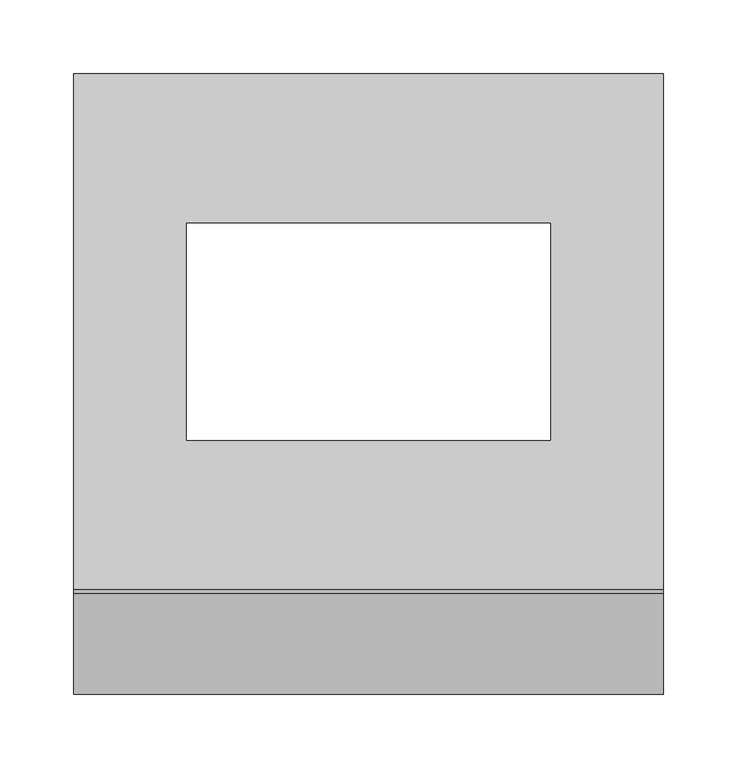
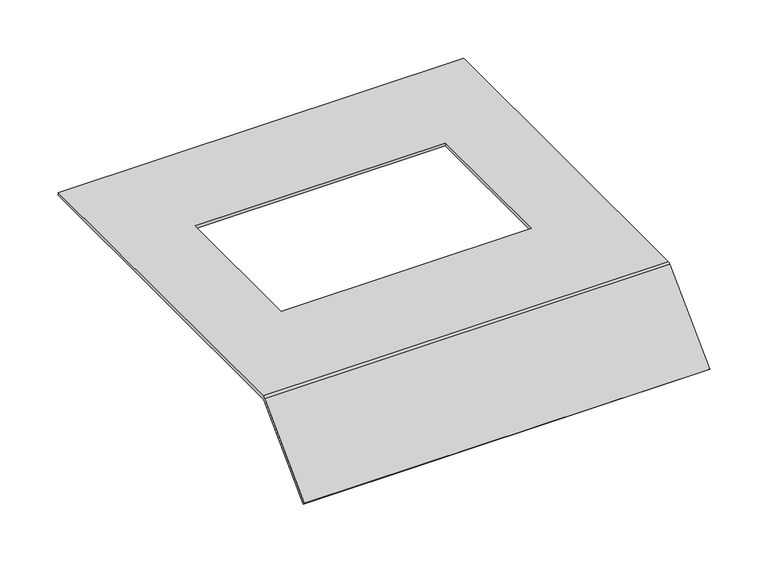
"""IFC4 building model written with IfcOpenShell, lengths in millimetres: proxy geometry, Electrical_Installation_Hager_Covers-With-Installation-Opening-E04 : Electrical_Installation_Hager_Covers-With-Installation-Opening-E04."""

from ifc_helpers import new_model, si_unit, frame, origin, place, context, project, spatial, polyline, circle_curve, source, transform, mapped, element, save
from ifc_brep_helpers import plane_surface, cylinder_surface, revolved_surface, advanced_brep


def electrical_fixtures_39b6e9ab(model_context):
    return source(origin(), model_context, "Body", "AdvancedBrep", [
        advanced_brep(
        [(0.0, 175.0, 40.5), (0.0, 175.0, 37.5), (0.0, -174.8229541, 37.5), (0.0, -175.8322972, 37.0819164), (0.0, -243.712807, -30.7985934), (0.0, -245.8341273, -28.6772731), (0.0, -177.8206472, 39.336207), (0.0, -175.0110025, 40.5), (400.0, 175.0, 40.5), (400.0, -175.0110025, 40.5), (400.0, -177.8206472, 39.336207), (400.0, -245.8341273, -28.6772731), (400.0, -243.712807, -30.7985934), (400.0, -175.8322972, 37.0819164), (400.0, -174.8229541, 37.5), (400.0, 175.0, 37.5), (323.5, 73.5, 37.5), (76.5, 73.5, 37.5), (76.5, -73.5, 37.5), (323.5, -73.5, 37.5), (76.5, 73.5, 40.5), (323.5, 73.5, 40.5), (323.5, -73.5, 40.5), (76.5, -73.5, 40.5)],
        [
            (0, 1),
            (1, 2),
            (2, 3, circle_curve(frame((0.0, -174.8229541, 36.0725733), z_axis=(1.0, 0.0, 0.0), x_axis=(0.0, 1.0, 0.0)), 1.4274267)),
            (3, 4),
            (4, 5),
            (5, 6),
            (6, 7, circle_curve(frame((0.0, -175.0110025, 36.5265623), z_axis=(-1.0, 0.0, 0.0), x_axis=(0.0, 1.0, 0.0)), 3.9734377)),
            (7, 0),
            (8, 9),
            (9, 10, circle_curve(frame((400.0, -175.0110025, 36.5265623), z_axis=(1.0, 0.0, 0.0), x_axis=(0.0, 1.0, 0.0)), 3.9734377)),
            (10, 11),
            (11, 12),
            (12, 13),
            (13, 14, circle_curve(frame((400.0, -174.8229541, 36.0725733), z_axis=(-1.0, 0.0, 0.0), x_axis=(0.0, 1.0, 0.0)), 1.4274267)),
            (14, 15),
            (15, 8),
            (0, 8),
            (15, 1),
            (14, 2),
            (16, 17),
            (17, 18),
            (18, 19),
            (19, 16),
            (13, 3),
            (12, 4),
            (11, 5),
            (10, 6),
            (9, 7),
            (20, 21),
            (21, 22),
            (22, 23),
            (23, 20),
            (16, 21),
            (20, 17),
            (23, 18),
            (22, 19),
        ],
        [
            plane_surface(frame((0.0, 0.3269864, 15.0), z_axis=(-1.0, 0.0, 0.0), x_axis=(0.0, 0.0, 1.0))),
            plane_surface(frame((400.0, 0.3269864, 15.0), z_axis=(1.0, 0.0, 0.0), x_axis=(0.0, 0.0, 1.0))),
            plane_surface(frame((0.0, 175.0, 40.5), z_axis=(0.0, 1.0, 0.0), x_axis=(1.0, 0.0, 0.0))),
            plane_surface(frame((0.0, 175.0, 37.5), z_axis=(0.0, 0.0, -1.0), x_axis=(1.0, 0.0, 0.0))),
            revolved_surface(polyline([(400.0, -173.3955274, 36.0725733), (0.0, -173.3955274, 36.0725733)]), (0.0, -174.8229541, 36.0725733), (1.0, 0.0, 0.0)),
            plane_surface(frame((0.0, -175.8322972, 37.0819164), z_axis=(0.0, 0.7071067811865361, -0.707106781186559), x_axis=(1.0, 0.0, 0.0))),
            plane_surface(frame((0.0, -243.712807, -30.7985934), z_axis=(0.0, -0.7071067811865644, -0.7071067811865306), x_axis=(1.0, 0.0, 0.0))),
            plane_surface(frame((0.0, -245.8341273, -28.6772731), z_axis=(0.0, -0.7071067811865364, 0.7071067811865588), x_axis=(1.0, 0.0, 0.0))),
            cylinder_surface(frame((0.0, -175.0110025, 36.5265623), z_axis=(-1.0, 0.0, 0.0), x_axis=(0.0, 1.0, 0.0)), 3.9734377),
            plane_surface(frame((0.0, -175.0110025, 40.5), z_axis=(0.0, 0.0, 1.0), x_axis=(1.0, 0.0, 0.0))),
            plane_surface(frame((323.5, 73.5, 250.0), z_axis=(0.0, -1.0, 0.0), x_axis=(0.0, 0.0, -1.0))),
            plane_surface(frame((76.5, 73.5, 250.0), z_axis=(1.0, 0.0, 0.0), x_axis=(0.0, 0.0, -1.0))),
            plane_surface(frame((76.5, -73.5, 250.0), z_axis=(0.0, 1.0, 0.0), x_axis=(0.0, 0.0, -1.0))),
            plane_surface(frame((323.5, -73.5, 250.0), z_axis=(-1.0, 0.0, 0.0), x_axis=(0.0, 0.0, -1.0))),
        ],
        [
            (0, [[1, 2, 3, 4, 5, 6, 7, 8]]),
            (1, [[9, 10, 11, 12, 13, 14, 15, 16]]),
            (2, [[-1, 17, -16, 18]]),
            (3, [[-2, -18, -15, 19], [20, 21, 22, 23]]),
            (4, [[-3, -19, -14, 24]]),
            (5, [[-4, -24, -13, 25]]),
            (6, [[-5, -25, -12, 26]]),
            (7, [[-6, -26, -11, 27]]),
            (8, [[-7, -27, -10, 28]]),
            (9, [[-8, -28, -9, -17], [29, 30, 31, 32]]),
            (10, [[33, -29, 34, -20]]),
            (11, [[-34, -32, 35, -21]]),
            (12, [[-35, -31, 36, -22]]),
            (13, [[-33, -23, -36, -30]]),
        ],
    ),
    ])


if __name__ == "__main__":
    model = new_model("IFC4")
    model_context = context("Model", 3, world=origin())
    ifc_project = project(units=[si_unit("LENGTHUNIT", "METRE", prefix="MILLI")], contexts=[model_context])
    site = spatial("IfcSite", under=ifc_project)
    building = spatial("IfcBuilding", under=site)
    placement = place(None, origin())
    electrical_fixtures_shape = electrical_fixtures_39b6e9ab(model_context)
    element("IfcBuildingElementProxy", 1, Name="Electrical_Installation_Hager_Covers-With-Installation-Opening-E04 : Electrical_Installation_Hager_Covers-With-Installation-Opening-E04", ObjectType="Electrical_Installation_Hager_Covers-With-Installation-Opening-E04 : Electrical_Installation_Hager_Covers-With-Installation-Opening-E04", at=placement, inside=building, context=model_context, shape_type="MappedRepresentation", body=[
        mapped(electrical_fixtures_shape, transform((0.0, 0.0, 0.0), x_axis=(1.0, 0.0, 0.0), y_axis=(0.0, 1.0, 0.0), z_axis=(0.0, 0.0, 1.0))),
    ])
    save(model, "model.ifc")
